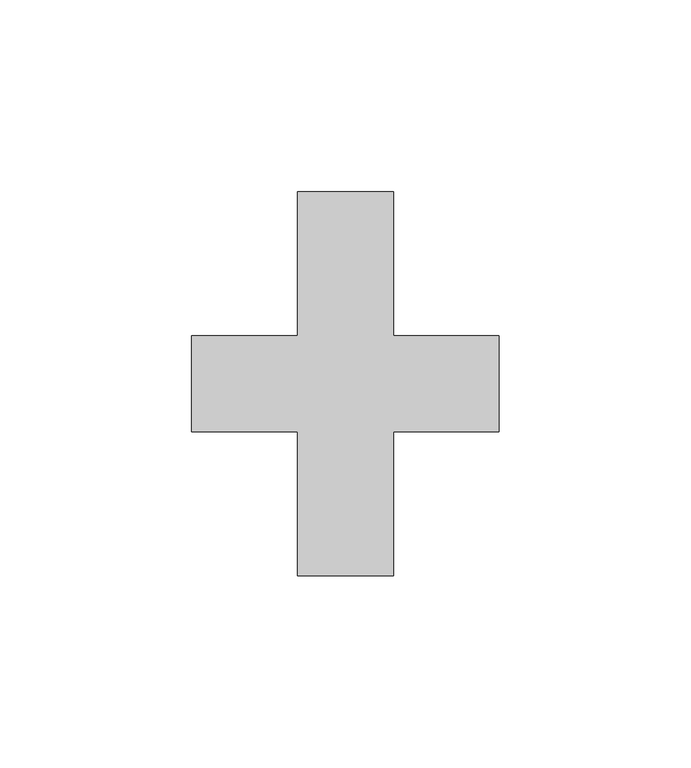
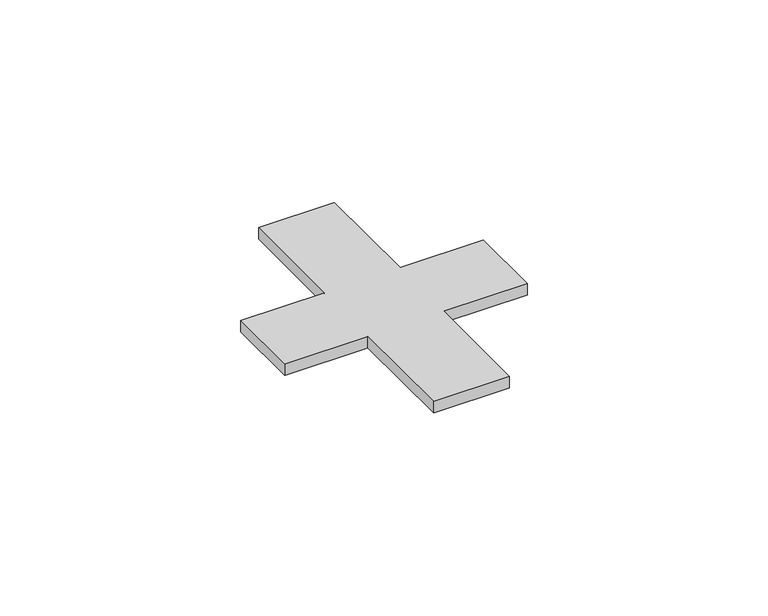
"""IFC4 building model written with IfcOpenShell, lengths in millimetres: duct fitting geometry, КНС_Крестовина_Полоса_Неспецифицируемое_DKC : NG3106CU_Медь_100х100 мм."""

import ifcopenshell
import ifcopenshell.guid

model = None  # the IFC model being written
_history = None  # IfcOwnerHistory: only IFC2X3 demands one
_inside = {}  # id of a spatial element -> (the spatial element, [elements in it])
_under = {}  # id of a project, library or spatial element -> (it, [spatial elements below it])
_declared = {}  # id of a project -> (the project, [libraries it declares])
_typed = {}  # id of a type object -> (the type object, [elements of that type])
_made_of = {}  # id of a material, layer set ... -> (it, [elements and type objects made of it])


def new_model(schema):
    """Start an empty IFC model of exactly this schema.

    Asked for "IFC4X3", IfcOpenShell would pick the latest addendum, in which some entities
    have other attributes; the version numbers below select the first issue.
    IFC2X3 requires an IfcOwnerHistory on every rooted entity: one is made here for all.
    """
    global model, _history
    if schema == "IFC4X3":
        model = ifcopenshell.file(schema_version=(4, 3, 0, 0))
    else:
        model = ifcopenshell.file(schema=schema)
    _inside.clear()
    _under.clear()
    _declared.clear()
    _typed.clear()
    _made_of.clear()
    _history = None
    if model.schema == "IFC2X3":
        org = make("IfcOrganization", Name="unknown")
        user = make(
            "IfcPersonAndOrganization",
            ThePerson=make("IfcPerson", FamilyName="unknown"),
            TheOrganization=org,
        )
        app = make(
            "IfcApplication",
            ApplicationDeveloper=org,
            Version="unknown",
            ApplicationFullName="unknown",
            ApplicationIdentifier="unknown",
        )
        _history = make(
            "IfcOwnerHistory",
            OwningUser=user,
            OwningApplication=app,
            ChangeAction="ADDED",
            CreationDate=0,
        )
    return model


def make(cls, **values):
    """One entity of the class cls with the attributes given. An attribute that is None is left unset."""
    return model.create_entity(
        cls, **{name: value for name, value in values.items() if value is not None}
    )


def rooted(cls, **values):
    """An entity with a GlobalId (a new one), such as an element, a storey or a relation."""
    return make(cls, GlobalId=ifcopenshell.guid.new(), OwnerHistory=_history, **values)


def si_unit(unit_type, name, prefix=None):
    """IfcSIUnit, for example si_unit("LENGTHUNIT", "METRE", prefix="MILLI")."""
    return make("IfcSIUnit", UnitType=unit_type, Prefix=prefix, Name=name)


def assignment(units):
    """IfcUnitAssignment: the units of a project."""
    return None if units is None else make("IfcUnitAssignment", Units=units)


def point(xyz):
    """IfcCartesianPoint."""
    return None if xyz is None else make("IfcCartesianPoint", Coordinates=xyz)


def direction(xyz):
    """IfcDirection."""
    return None if xyz is None else make("IfcDirection", DirectionRatios=xyz)


def frame(location, z_axis=None, x_axis=None):
    """IfcAxis2Placement3D, a coordinate frame: its origin and axes. An axis left out is left unset."""
    return make(
        "IfcAxis2Placement3D",
        Location=point(location),
        Axis=direction(z_axis),
        RefDirection=direction(x_axis),
    )


def origin():
    """The frame at (0, 0, 0) with its axes left unset."""
    return frame((0.0, 0.0, 0.0))


def place(relative_to, where):
    """IfcLocalPlacement: puts the frame where relative to a parent placement (None: the world)."""
    return make(
        "IfcLocalPlacement", PlacementRelTo=relative_to, RelativePlacement=where
    )


def context(
    kind, dimensions, precision=None, world=None, true_north=None, identifier=None
):
    """IfcGeometricRepresentationContext, for example the 3D "Model" context."""
    return make(
        "IfcGeometricRepresentationContext",
        ContextIdentifier=identifier,
        ContextType=kind,
        CoordinateSpaceDimension=dimensions,
        Precision=precision,
        WorldCoordinateSystem=world,
        TrueNorth=true_north,
    )


def project(units=None, contexts=None):
    """IfcProject with its units and contexts."""
    return rooted(
        "IfcProject",
        Name="project",
        RepresentationContexts=contexts,
        UnitsInContext=assignment(units),
    )


def spatial(cls, under=None, at=None, **own):
    """A site, building, storey or space (cls), placed at a placement, below another one or the project."""
    s = rooted(cls, ObjectPlacement=at, **own)
    if under is not None:
        _under.setdefault(under.id(), (under, []))[1].append(s)
    return s


def polyline(points):
    """IfcPolyline through the points."""
    return make("IfcPolyline", Points=[point(p) for p in points])


def outline(outer, holes=None, kind="AREA"):
    """IfcArbitraryClosedProfileDef: a profile drawn as a closed curve; with holes, ...WithVoids."""
    if holes is None:
        return make("IfcArbitraryClosedProfileDef", ProfileType=kind, OuterCurve=outer)
    return make(
        "IfcArbitraryProfileDefWithVoids",
        ProfileType=kind,
        OuterCurve=outer,
        InnerCurves=holes,
    )


def extrude(swept, where, along, depth):
    """IfcExtrudedAreaSolid: the profile swept, set in the frame where, extruded along a direction by depth."""
    return make(
        "IfcExtrudedAreaSolid",
        SweptArea=swept,
        Position=where,
        ExtrudedDirection=direction(along),
        Depth=depth,
    )


def shape(context_of_items, identifier, shape_type, items):
    """IfcShapeRepresentation: the items that make up one representation, for example the "Body"."""
    return make(
        "IfcShapeRepresentation",
        ContextOfItems=context_of_items,
        RepresentationIdentifier=identifier,
        RepresentationType=shape_type,
        Items=items,
    )


def source(mapping_origin, context_of_items, identifier, shape_type, items):
    """IfcRepresentationMap: a shape defined once, which mapped items show again and again."""
    return make(
        "IfcRepresentationMap",
        MappingOrigin=mapping_origin,
        MappedRepresentation=shape(context_of_items, identifier, shape_type, items),
    )


def transform(
    local_origin,
    x_axis=None,
    y_axis=None,
    z_axis=None,
    scale=None,
    scale2=None,
    scale3=None,
    uniform=True,
):
    """IfcCartesianTransformationOperator3D, or its non-uniform kind. x_axis, y_axis, z_axis: its Axis1, 2, 3."""
    if uniform:
        return make(
            "IfcCartesianTransformationOperator3D",
            Axis1=direction(x_axis),
            Axis2=direction(y_axis),
            LocalOrigin=point(local_origin),
            Scale=scale,
            Axis3=direction(z_axis),
        )
    return make(
        "IfcCartesianTransformationOperator3DnonUniform",
        Axis1=direction(x_axis),
        Axis2=direction(y_axis),
        LocalOrigin=point(local_origin),
        Scale=scale,
        Axis3=direction(z_axis),
        Scale2=scale2,
        Scale3=scale3,
    )


def mapped(mapping_source, mapping_target):
    """IfcMappedItem: shows the shape of a source again, moved by a transform."""
    return make(
        "IfcMappedItem", MappingSource=mapping_source, MappingTarget=mapping_target
    )


def made_of(thing, what):
    """Note that an element or type object is made of a material, layer set ...; save() writes the relation."""
    if what is not None:
        _made_of.setdefault(what.id(), (what, []))[1].append(thing)
    return thing


def element(
    cls,
    number,
    at=None,
    inside=None,
    cuts=None,
    type_object=None,
    material=None,
    context=None,
    identifier="Body",
    shape_type=None,
    held_by="IfcProductDefinitionShape",
    body=None,
    shapes=None,
    **own,
):
    """One element of the class cls, such as IfcWall. Its Tag is "e" and its number.

    at: its placement. inside: the storey or other place that contains it. cuts: it is an
    opening in that element (IfcRelVoidsElement). A single representation is given by context,
    identifier, shape_type and body (its items); several are given by shapes. held_by: the class
    of the entity that holds the representations. save() writes the other relations.
    """
    e = rooted(cls, Tag="e%d" % number, ObjectPlacement=at, **own)
    if body is not None:
        shapes = [shape(context, identifier, shape_type, body)]
    if shapes is not None:
        e.Representation = make(held_by, Representations=shapes)
    if inside is not None:
        _inside.setdefault(inside.id(), (inside, []))[1].append(e)
    if cuts is not None:
        rooted(
            "IfcRelVoidsElement", RelatingBuildingElement=cuts, RelatedOpeningElement=e
        )
    if type_object is not None:
        _typed.setdefault(type_object.id(), (type_object, []))[1].append(e)
    return made_of(e, material)


def aggregate(whole, parts):
    """IfcRelAggregates: a whole, such as a stair, and the parts it consists of."""
    return rooted("IfcRelAggregates", RelatingObject=whole, RelatedObjects=parts)


def save(model, path):
    """Write the relations noted so far, then the file.

    IfcRelAggregates (storeys below a building ...), IfcRelContainedInSpatialStructure (elements
    in a storey), IfcRelDefinesByType, IfcRelAssociatesMaterial and IfcRelDeclares: one each for
    every whole, place, type object, material and project.
    """
    for whole, parts in _under.values():
        aggregate(whole, parts)
    for where, things in _inside.values():
        rooted(
            "IfcRelContainedInSpatialStructure",
            RelatedElements=things,
            RelatingStructure=where,
        )
    for kind, things in _typed.values():
        rooted("IfcRelDefinesByType", RelatedObjects=things, RelatingType=kind)
    for what, things in _made_of.values():
        rooted("IfcRelAssociatesMaterial", RelatedObjects=things, RelatingMaterial=what)
    for by, libraries in _declared.values():
        rooted("IfcRelDeclares", RelatingContext=by, RelatedDefinitions=libraries)
    model.write(path)


def duct_fitting_6c424e49(model_context):
    return source(origin(), model_context, "Body", "SweptSolid", [
        extrude(outline(polyline([(3.75, -50.0), (-21.25, -50.0), (-21.25, -12.5), (-48.75, -12.5), (-48.75, 12.5), (-21.25, 12.5), (-21.25, 50.0), (3.75, 50.0), (3.75, 12.5), (31.25, 12.5), (31.25, -12.5), (3.75, -12.5), (3.75, -50.0)])), frame((0.0, 0.0, -2.0), z_axis=(0.0, 0.0, 1.0), x_axis=(1.0, 0.0, 0.0)), (0.0, 0.0, 1.0), 4.0),
    ])


if __name__ == "__main__":
    model = new_model("IFC4")
    model_context = context("Model", 3, world=origin())
    ifc_project = project(units=[si_unit("LENGTHUNIT", "METRE", prefix="MILLI")], contexts=[model_context])
    site = spatial("IfcSite", under=ifc_project)
    building = spatial("IfcBuilding", under=site)
    placement = place(None, origin())
    duct_fitting_shape = duct_fitting_6c424e49(model_context)
    element("IfcDuctFitting", 1, ObjectType="КНС_Крестовина_Полоса_Неспецифицируемое_DKC : NG3106CU_Медь_100х100 мм", at=placement, inside=building, context=model_context, shape_type="MappedRepresentation", body=[
        mapped(duct_fitting_shape, transform((0.0, 0.0, 0.0), x_axis=(1.0, 0.0, 0.0), y_axis=(0.0, 1.0, 0.0), z_axis=(0.0, 0.0, 1.0))),
    ])
    save(model, "model.ifc")
